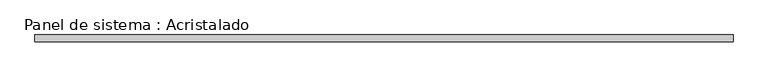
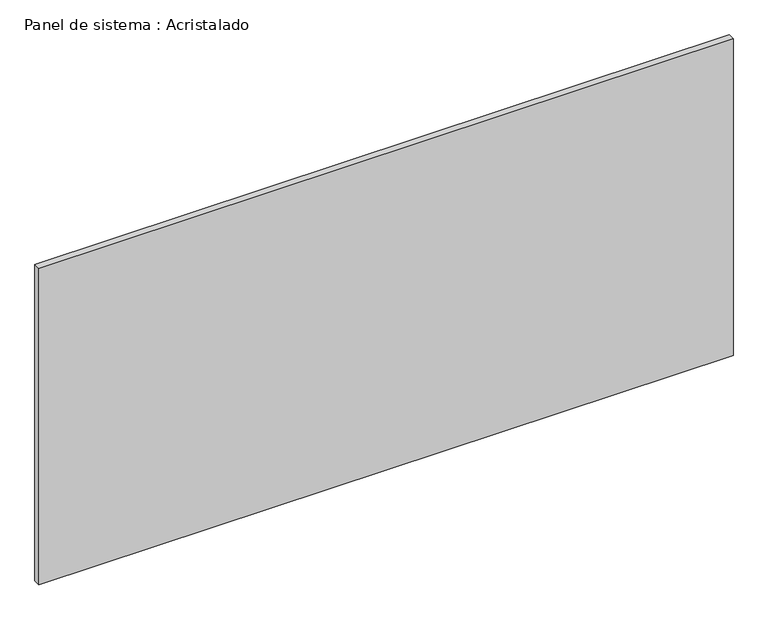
"""IFC4 building model written with IfcOpenShell, lengths in millimetres: plate geometry, Panel de sistema : Acristalado."""

from ifc_helpers import new_model, si_unit, origin, origin_with_axes, place, context, project, spatial, polyline, outline, extrude, source, transform, mapped, element, save


def panel_de_sistema_acristalado_40b4878c(model_context):
    return source(origin(), model_context, "Body", "SweptSolid", [
        extrude(outline(polyline([(985.0, -10.0), (-985.0, -10.0), (-985.0, 10.0), (985.0, 10.0), (985.0, -10.0)])), origin_with_axes(), (0.0, 0.0, 1.0), 950.0),
    ])


if __name__ == "__main__":
    model = new_model("IFC4")
    model_context = context("Model", 3, world=origin())
    ifc_project = project(units=[si_unit("LENGTHUNIT", "METRE", prefix="MILLI")], contexts=[model_context])
    site = spatial("IfcSite", under=ifc_project)
    building = spatial("IfcBuilding", under=site)
    placement = place(None, origin())
    panel_de_sistema_acristalado_shape = panel_de_sistema_acristalado_40b4878c(model_context)
    element("IfcPlate", 1, ObjectType="Panel de sistema : Acristalado", at=placement, inside=building, context=model_context, shape_type="MappedRepresentation", body=[
        mapped(panel_de_sistema_acristalado_shape, transform((0.0, 0.0, 0.0), x_axis=(1.0, 0.0, 0.0), y_axis=(0.0, 1.0, 0.0), z_axis=(0.0, 0.0, 1.0))),
    ])
    save(model, "model.ifc")
